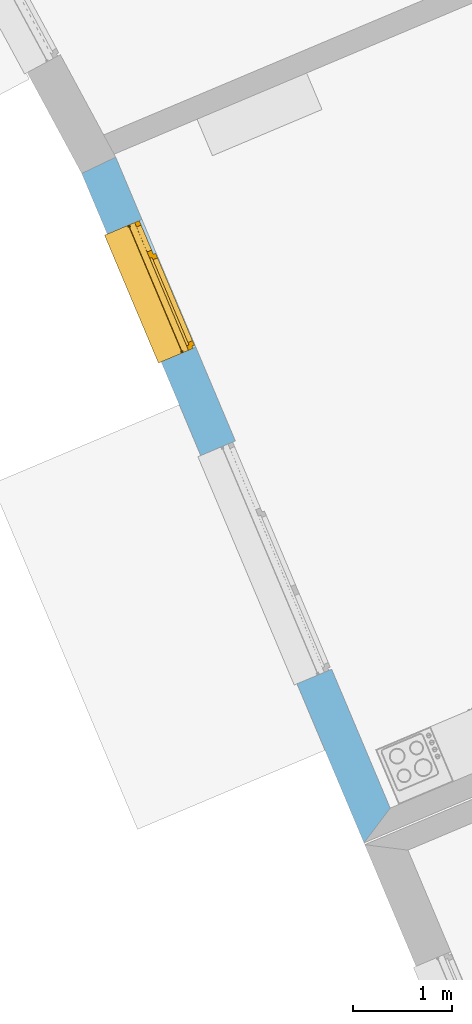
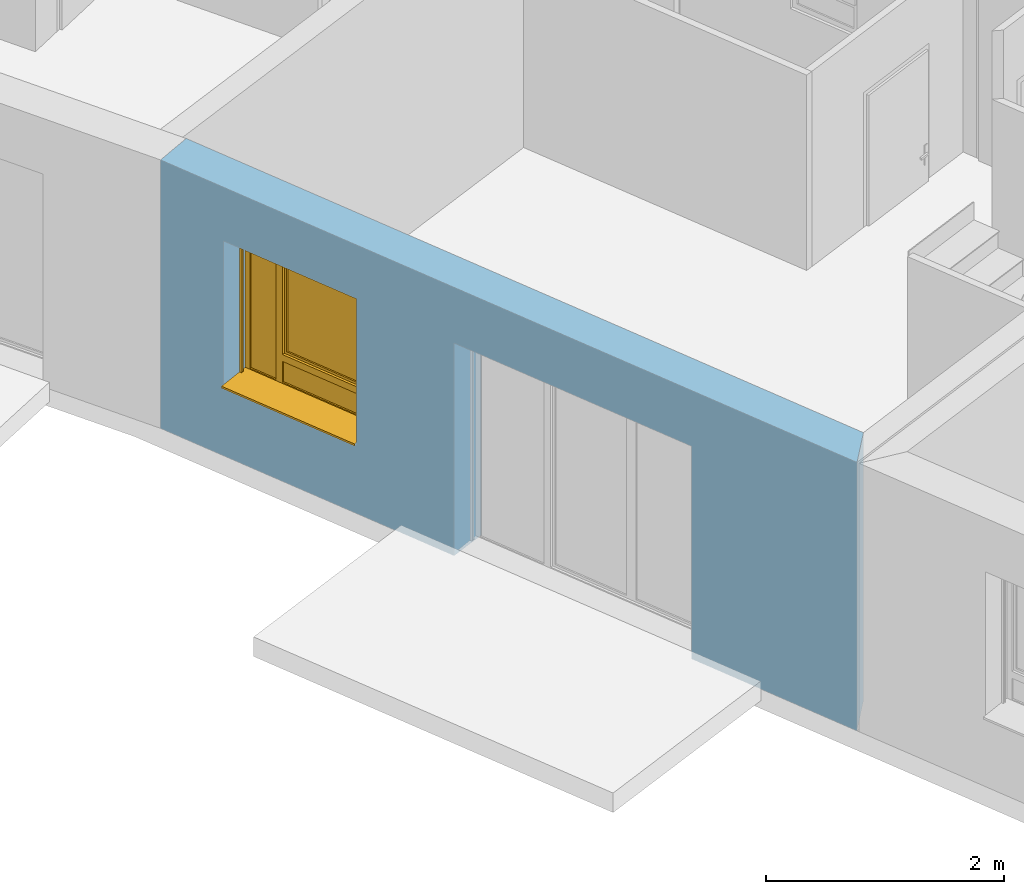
# One storey, part 58 of 195: 1 window, 2 openings, plus 1 element that does not belong to this part.
"""IFC2X3 building model written with IfcOpenShell, lengths in metres."""

import ifcopenshell
import ifcopenshell.guid

model = None  # the IFC model being written
_history = None  # IfcOwnerHistory: only IFC2X3 demands one
_inside = {}  # id of a spatial element -> (the spatial element, [elements in it])
_under = {}  # id of a project, library or spatial element -> (it, [spatial elements below it])
_declared = {}  # id of a project -> (the project, [libraries it declares])
_typed = {}  # id of a type object -> (the type object, [elements of that type])
_made_of = {}  # id of a material, layer set ... -> (it, [elements and type objects made of it])


def new_model(schema):
    """Start an empty IFC model of exactly this schema.

    Asked for "IFC4X3", IfcOpenShell would pick the latest addendum, in which some entities
    have other attributes; the version numbers below select the first issue.
    IFC2X3 requires an IfcOwnerHistory on every rooted entity: one is made here for all.
    """
    global model, _history
    if schema == "IFC4X3":
        model = ifcopenshell.file(schema_version=(4, 3, 0, 0))
    else:
        model = ifcopenshell.file(schema=schema)
    _inside.clear()
    _under.clear()
    _declared.clear()
    _typed.clear()
    _made_of.clear()
    _history = None
    if model.schema == "IFC2X3":
        org = make("IfcOrganization", Name="unknown")
        user = make(
            "IfcPersonAndOrganization",
            ThePerson=make("IfcPerson", FamilyName="unknown"),
            TheOrganization=org,
        )
        app = make(
            "IfcApplication",
            ApplicationDeveloper=org,
            Version="unknown",
            ApplicationFullName="unknown",
            ApplicationIdentifier="unknown",
        )
        _history = make(
            "IfcOwnerHistory",
            OwningUser=user,
            OwningApplication=app,
            ChangeAction="ADDED",
            CreationDate=0,
        )
    return model


def make(cls, **values):
    """One entity of the class cls with the attributes given. An attribute that is None is left unset."""
    return model.create_entity(
        cls, **{name: value for name, value in values.items() if value is not None}
    )


def entity(cls, *values):
    """Any entity or typed value of the class cls, its attributes in the order of the schema. None: left unset."""
    e = model.create_entity(cls)
    for i, value in enumerate(values):
        if value is not None:
            e[i] = value
    return e


def rooted(cls, **values):
    """An entity with a GlobalId (a new one), such as an element, a storey or a relation."""
    return make(cls, GlobalId=ifcopenshell.guid.new(), OwnerHistory=_history, **values)


def si_unit(unit_type, name, prefix=None):
    """IfcSIUnit, for example si_unit("LENGTHUNIT", "METRE", prefix="MILLI")."""
    return make("IfcSIUnit", UnitType=unit_type, Prefix=prefix, Name=name)


def converted_unit(unit_type, name, factor, base, dimensions=None, offset=None):
    """IfcConversionBasedUnit, such as the inch: factor (a typed value) times the base unit."""
    return make(
        "IfcConversionBasedUnit"
        if offset is None
        else "IfcConversionBasedUnitWithOffset",
        ConversionOffset=offset,
        Dimensions=None
        if dimensions is None
        else entity("IfcDimensionalExponents", *dimensions),
        UnitType=unit_type,
        Name=name,
        ConversionFactor=make(
            "IfcMeasureWithUnit", ValueComponent=factor, UnitComponent=base
        ),
    )


def derived_unit(unit_type, elements):
    """IfcDerivedUnit: a product of units, each with its exponent."""
    return make(
        "IfcDerivedUnit",
        Elements=[
            make("IfcDerivedUnitElement", Unit=unit, Exponent=power)
            for unit, power in elements
        ],
        UnitType=unit_type,
    )


def money_unit(currency):
    """IfcMonetaryUnit."""
    return make("IfcMonetaryUnit", Currency=currency)


def assignment(units):
    """IfcUnitAssignment: the units of a project."""
    return None if units is None else make("IfcUnitAssignment", Units=units)


def point(xyz):
    """IfcCartesianPoint."""
    return None if xyz is None else make("IfcCartesianPoint", Coordinates=xyz)


def direction(xyz):
    """IfcDirection."""
    return None if xyz is None else make("IfcDirection", DirectionRatios=xyz)


def frame(location, z_axis=None, x_axis=None):
    """IfcAxis2Placement3D, a coordinate frame: its origin and axes. An axis left out is left unset."""
    return make(
        "IfcAxis2Placement3D",
        Location=point(location),
        Axis=direction(z_axis),
        RefDirection=direction(x_axis),
    )


def origin_with_axes():
    """The frame at (0, 0, 0) with the z axis (0, 0, 1) and the x axis (1, 0, 0) written out."""
    return frame((0.0, 0.0, 0.0), z_axis=(0.0, 0.0, 1.0), x_axis=(1.0, 0.0, 0.0))


def place(relative_to, where):
    """IfcLocalPlacement: puts the frame where relative to a parent placement (None: the world)."""
    return make(
        "IfcLocalPlacement", PlacementRelTo=relative_to, RelativePlacement=where
    )


def context(
    kind, dimensions, precision=None, world=None, true_north=None, identifier=None
):
    """IfcGeometricRepresentationContext, for example the 3D "Model" context."""
    return make(
        "IfcGeometricRepresentationContext",
        ContextIdentifier=identifier,
        ContextType=kind,
        CoordinateSpaceDimension=dimensions,
        Precision=precision,
        WorldCoordinateSystem=world,
        TrueNorth=true_north,
    )


def subcontext(parent, identifier, kind, view, scale=None):
    """IfcGeometricRepresentationSubContext, for example "Body" below "Model"."""
    return make(
        "IfcGeometricRepresentationSubContext",
        ContextIdentifier=identifier,
        ContextType=kind,
        ParentContext=parent,
        TargetScale=scale,
        TargetView=view,
    )


def project(units=None, contexts=None):
    """IfcProject with its units and contexts."""
    return rooted(
        "IfcProject",
        Name="project",
        RepresentationContexts=contexts,
        UnitsInContext=assignment(units),
    )


def spatial(cls, under=None, at=None, **own):
    """A site, building, storey or space (cls), placed at a placement, below another one or the project."""
    s = rooted(cls, ObjectPlacement=at, **own)
    if under is not None:
        _under.setdefault(under.id(), (under, []))[1].append(s)
    return s


def polyline(points):
    """IfcPolyline through the points."""
    return make("IfcPolyline", Points=[point(p) for p in points])


def outline(outer, holes=None, kind="AREA"):
    """IfcArbitraryClosedProfileDef: a profile drawn as a closed curve; with holes, ...WithVoids."""
    if holes is None:
        return make("IfcArbitraryClosedProfileDef", ProfileType=kind, OuterCurve=outer)
    return make(
        "IfcArbitraryProfileDefWithVoids",
        ProfileType=kind,
        OuterCurve=outer,
        InnerCurves=holes,
    )


def extrude(swept, where, along, depth):
    """IfcExtrudedAreaSolid: the profile swept, set in the frame where, extruded along a direction by depth."""
    return make(
        "IfcExtrudedAreaSolid",
        SweptArea=swept,
        Position=where,
        ExtrudedDirection=direction(along),
        Depth=depth,
    )


def faces_of(points, faces, orient=None, outer=None):
    """IfcFace entities. A face is a list of loops; a loop is a list of indices into points, from 0.

    orient and outer hold one flag for each loop. By default every Orientation is true, the
    first loop of a face is its IfcFaceOuterBound and the others are IfcFaceBound.
    """
    made = []
    for i, loops in enumerate(faces):
        bounds = []
        for j, loop in enumerate(loops):
            is_outer = j == 0 if outer is None else outer[i][j]
            bounds.append(
                make(
                    "IfcFaceOuterBound" if is_outer else "IfcFaceBound",
                    Bound=make("IfcPolyLoop", Polygon=[points[k] for k in loop]),
                    Orientation=True if orient is None else orient[i][j],
                )
            )
        made.append(make("IfcFace", Bounds=bounds))
    return made


def open_shell(faces, orient=None, outer=None):
    """The faces of one IfcOpenShell. surface_model builds it on its shared points."""
    return ("IfcOpenShell", faces, orient, outer)


def faceted_brep(points, faces, orient=None, outer=None, voids=None):
    """IfcFacetedBrep: a solid bounded by flat faces; with voids (closed shells), ...WithVoids."""
    shared = [point(p) for p in points]
    hull = make("IfcClosedShell", CfsFaces=faces_of(shared, faces, orient, outer))
    if voids is None:
        return make("IfcFacetedBrep", Outer=hull)
    return make(
        "IfcFacetedBrepWithVoids",
        Outer=hull,
        Voids=[
            make(cls, CfsFaces=faces_of(shared, fs, o, b)) for cls, fs, o, b in voids
        ],
    )


def surface_model(cls, points, shells):
    """IfcFaceBasedSurfaceModel or IfcShellBasedSurfaceModel (cls): surfaces that need not close."""
    shared = [point(p) for p in points]
    made = [make(c, CfsFaces=faces_of(shared, fs, o, b)) for c, fs, o, b in shells]
    if cls == "IfcFaceBasedSurfaceModel":
        return make(cls, FbsmFaces=made)
    return make(cls, SbsmBoundary=made)


def shape(context_of_items, identifier, shape_type, items):
    """IfcShapeRepresentation: the items that make up one representation, for example the "Body"."""
    return make(
        "IfcShapeRepresentation",
        ContextOfItems=context_of_items,
        RepresentationIdentifier=identifier,
        RepresentationType=shape_type,
        Items=items,
    )


def source(mapping_origin, context_of_items, identifier, shape_type, items):
    """IfcRepresentationMap: a shape defined once, which mapped items show again and again."""
    return make(
        "IfcRepresentationMap",
        MappingOrigin=mapping_origin,
        MappedRepresentation=shape(context_of_items, identifier, shape_type, items),
    )


def transform(
    local_origin,
    x_axis=None,
    y_axis=None,
    z_axis=None,
    scale=None,
    scale2=None,
    scale3=None,
    uniform=True,
):
    """IfcCartesianTransformationOperator3D, or its non-uniform kind. x_axis, y_axis, z_axis: its Axis1, 2, 3."""
    if uniform:
        return make(
            "IfcCartesianTransformationOperator3D",
            Axis1=direction(x_axis),
            Axis2=direction(y_axis),
            LocalOrigin=point(local_origin),
            Scale=scale,
            Axis3=direction(z_axis),
        )
    return make(
        "IfcCartesianTransformationOperator3DnonUniform",
        Axis1=direction(x_axis),
        Axis2=direction(y_axis),
        LocalOrigin=point(local_origin),
        Scale=scale,
        Axis3=direction(z_axis),
        Scale2=scale2,
        Scale3=scale3,
    )


def mapped(mapping_source, mapping_target):
    """IfcMappedItem: shows the shape of a source again, moved by a transform."""
    return make(
        "IfcMappedItem", MappingSource=mapping_source, MappingTarget=mapping_target
    )


def material(Name=None, Category=None):
    """IfcMaterial."""
    return make("IfcMaterial", Name=Name, Category=Category)


def layer(
    of_material, thickness, ventilated=None, Name=None, Category=None, Priority=None
):
    """IfcMaterialLayer: one layer of a wall or slab, of a material (None: an air gap)."""
    return make(
        "IfcMaterialLayer",
        Material=of_material,
        LayerThickness=thickness,
        IsVentilated=ventilated,
        Name=Name,
        Category=Category,
        Priority=Priority,
    )


def layer_set(layers, Name=None):
    """IfcMaterialLayerSet."""
    return make("IfcMaterialLayerSet", MaterialLayers=layers, LayerSetName=Name)


def layer_usage(for_layer_set, set_direction, sense, offset, extent=None):
    """IfcMaterialLayerSetUsage: how a layer set lies in its element."""
    return make(
        "IfcMaterialLayerSetUsage",
        ForLayerSet=for_layer_set,
        LayerSetDirection=set_direction,
        DirectionSense=sense,
        OffsetFromReferenceLine=offset,
        ReferenceExtent=extent,
    )


def made_of(thing, what):
    """Note that an element or type object is made of a material, layer set ...; save() writes the relation."""
    if what is not None:
        _made_of.setdefault(what.id(), (what, []))[1].append(thing)
    return thing


def type_object(cls, material=None, **own):
    """A type object (cls), such as IfcWallType, which elements share."""
    return made_of(rooted(cls, **own), material)


def element(
    cls,
    number,
    at=None,
    inside=None,
    cuts=None,
    type_object=None,
    material=None,
    context=None,
    identifier="Body",
    shape_type=None,
    held_by="IfcProductDefinitionShape",
    body=None,
    shapes=None,
    **own,
):
    """One element of the class cls, such as IfcWall. Its Tag is "e" and its number.

    at: its placement. inside: the storey or other place that contains it. cuts: it is an
    opening in that element (IfcRelVoidsElement). A single representation is given by context,
    identifier, shape_type and body (its items); several are given by shapes. held_by: the class
    of the entity that holds the representations. save() writes the other relations.
    """
    e = rooted(cls, Tag="e%d" % number, ObjectPlacement=at, **own)
    if body is not None:
        shapes = [shape(context, identifier, shape_type, body)]
    if shapes is not None:
        e.Representation = make(held_by, Representations=shapes)
    if inside is not None:
        _inside.setdefault(inside.id(), (inside, []))[1].append(e)
    if cuts is not None:
        rooted(
            "IfcRelVoidsElement", RelatingBuildingElement=cuts, RelatedOpeningElement=e
        )
    if type_object is not None:
        _typed.setdefault(type_object.id(), (type_object, []))[1].append(e)
    return made_of(e, material)


def fill(opening, filler):
    """IfcRelFillsElement: the door or window that sits in an opening."""
    return rooted(
        "IfcRelFillsElement",
        RelatingOpeningElement=opening,
        RelatedBuildingElement=filler,
    )


def aggregate(whole, parts):
    """IfcRelAggregates: a whole, such as a stair, and the parts it consists of."""
    return rooted("IfcRelAggregates", RelatingObject=whole, RelatedObjects=parts)


def save(model, path):
    """Write the relations noted so far, then the file.

    IfcRelAggregates (storeys below a building ...), IfcRelContainedInSpatialStructure (elements
    in a storey), IfcRelDefinesByType, IfcRelAssociatesMaterial and IfcRelDeclares: one each for
    every whole, place, type object, material and project.
    """
    for whole, parts in _under.values():
        aggregate(whole, parts)
    for where, things in _inside.values():
        rooted(
            "IfcRelContainedInSpatialStructure",
            RelatedElements=things,
            RelatingStructure=where,
        )
    for kind, things in _typed.values():
        rooted("IfcRelDefinesByType", RelatedObjects=things, RelatingType=kind)
    for what, things in _made_of.values():
        rooted("IfcRelAssociatesMaterial", RelatedObjects=things, RelatingMaterial=what)
    for by, libraries in _declared.values():
        rooted("IfcRelDeclares", RelatingContext=by, RelatedDefinitions=libraries)
    model.write(path)


model = new_model("IFC2X3")

# Units and contexts
model_context = context("Model", 3, precision=1e-05, world=origin_with_axes(), true_north=direction((0.0, 1.0)))
body_context = subcontext(model_context, "Body", "Model", "MODEL_VIEW")
ifc_project = project(units=[si_unit("LENGTHUNIT", "METRE"), si_unit("AREAUNIT", "SQUARE_METRE"), si_unit("VOLUMEUNIT", "CUBIC_METRE"), converted_unit("PLANEANGLEUNIT", "DEGREE", entity("IfcPlaneAngleMeasure", 0.0174532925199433), si_unit("PLANEANGLEUNIT", "RADIAN"), dimensions=[0, 0, 0, 0, 0, 0, 0]), money_unit("CHF"), converted_unit("TIMEUNIT", "Year", entity("IfcTimeMeasure", 31557600.0), si_unit("TIMEUNIT", "SECOND"), dimensions=[0, 0, 1, 0, 0, 0, 0]), si_unit("MASSUNIT", "GRAM", prefix="KILO"), si_unit("THERMODYNAMICTEMPERATUREUNIT", "DEGREE_CELSIUS"), si_unit("LUMINOUSINTENSITYUNIT", "LUMEN"), si_unit("ENERGYUNIT", "JOULE", prefix="MEGA"), derived_unit("THERMALCONDUCTANCEUNIT", [(si_unit("POWERUNIT", "WATT"), 1), (si_unit("LENGTHUNIT", "METRE"), -1), (si_unit("THERMODYNAMICTEMPERATUREUNIT", "KELVIN"), -1)]), derived_unit("SPECIFICHEATCAPACITYUNIT", [(si_unit("ENERGYUNIT", "JOULE"), 1), (si_unit("MASSUNIT", "GRAM", prefix="KILO"), -1), (si_unit("THERMODYNAMICTEMPERATUREUNIT", "KELVIN"), -1)]), derived_unit("MASSDENSITYUNIT", [(si_unit("MASSUNIT", "GRAM", prefix="KILO"), 1), (si_unit("VOLUMEUNIT", "CUBIC_METRE"), -1)])], contexts=[model_context])

# Site, building, storey
site_placement = place(None, origin_with_axes())
site = spatial("IfcSite", under=ifc_project, at=site_placement, Name="Site", CompositionType="ELEMENT")
building_placement = place(site_placement, origin_with_axes())
building = spatial("IfcBuilding", under=site, at=building_placement, Name="Bâtiment", CompositionType="ELEMENT")
storey_placement = place(building_placement, origin_with_axes())
storey = spatial("IfcBuildingStorey", under=building, at=storey_placement, Name="rdc", CompositionType="ELEMENT", Elevation=0.0)

# Wall, openings, window
ifc_material_1 = material(Name="Parpaing 312445824")
ifc_layer_1 = layer(ifc_material_1, 0.22, ventilated="UNKNOWN")
ifc_material_2 = material(Name="Isolant styromousse 301821074")
ifc_layer_2 = layer(ifc_material_2, 0.16, ventilated="UNKNOWN")
ifc_layer_set = layer_set([ifc_layer_1, ifc_layer_2], Name="isol int 22+16 0836643197")
ifc_layer_usage = layer_usage(ifc_layer_set, "AXIS2", "POSITIVE", 0.0)
wall_type = type_object("IfcWallType", Name="isol int 22+16 0836643197 380", PredefinedType="NOTDEFINED")
wall_placement = place(storey_placement, frame((9560.431539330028, -1038.563917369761, 57.7), z_axis=(0.0, 0.0, 1.0), x_axis=(0.3885669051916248, -0.9214205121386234, 0.0)))
wall = element("IfcWallStandardCase", 1, at=wall_placement, inside=storey, type_object=wall_type, material=ifc_layer_usage, Name="Mur-113", context=body_context, shape_type="SweptSolid", body=[
    extrude(outline(polyline([(0.0, 0.0), (7.331275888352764, 0.0), (7.111275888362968, 0.3799999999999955), (-0.01830169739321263, 0.3799999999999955), (0.0, 0.0)])), origin_with_axes(), (0.0, 0.0, 1.0), 2.75),
])
opening_1_placement = place(wall_placement, frame((4.33985535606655, 0.0, 0.0), z_axis=(0.0, 0.0, 1.0), x_axis=(1.0, 0.0, 0.0)))
element("IfcOpeningElement", 2, at=opening_1_placement, cuts=wall, Name="Fen-045", context=body_context, shape_type="Brep", body=[
    faceted_brep([(-1.25, 0.4800000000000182, 2.18), (1.250000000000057, 0.4800000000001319, 2.18), (1.25, 3.005842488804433, 2.18), (-1.25, 3.005842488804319, 2.18), (-1.25, 0.4800000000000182, 2.380000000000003), (1.250000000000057, 0.4800000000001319, 2.380000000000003), (1.250000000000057, 0.3000000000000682, 2.18), (1.250000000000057, 0.3000000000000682, 0.0), (1.25, 3.005842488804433, 0.0), (-1.25, 3.005842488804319, 0.0), (-1.25, 0.3000000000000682, 2.18), (-1.25, 0.3000000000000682, 0.0), (-1.25, 0.2200000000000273, 2.18), (-1.25, 0.2200000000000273, 2.380000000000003), (1.25, 0.220000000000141, 2.380000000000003), (1.25, 0.220000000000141, 2.18), (1.250000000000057, -2.625842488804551, 2.18), (1.250000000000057, -2.625842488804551, 0.0), (-1.25, -2.625842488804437, 0.0), (-1.25, -2.625842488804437, 2.18)], [[[0, 1, 2, 3]], [[1, 0, 4, 5]], [[1, 6, 7, 8, 2]], [[2, 8, 9, 3]], [[10, 0, 3, 9, 11]], [[0, 10, 12, 13, 4]], [[4, 13, 14, 5]], [[6, 1, 5, 14, 15]], [[6, 15, 16, 17, 7]], [[7, 11, 9, 8]], [[12, 10, 11, 18, 19]], [[12, 15, 14, 13]], [[15, 12, 19, 16]], [[19, 18, 17, 16]], [[11, 7, 17, 18]]]),
])
opening_2_placement = place(wall_placement, frame((1.363914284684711, 0.0, 0.7000000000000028), z_axis=(0.0, 0.0, 1.0), x_axis=(1.0, 0.0, 0.0)))
opening_2 = element("IfcOpeningElement", 3, at=opening_2_placement, cuts=wall, Name="Fen-045", context=body_context, shape_type="Brep", body=[
    faceted_brep([(-0.7000000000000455, 0.4800000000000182, 1.5), (0.7000000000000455, 0.4800000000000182, 1.5), (0.6999999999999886, 3.005842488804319, 1.5), (-0.6999999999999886, 3.005842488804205, 1.5), (-0.7000000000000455, 0.4800000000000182, 1.700000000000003), (0.7000000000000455, 0.4800000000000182, 1.700000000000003), (0.6999999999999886, 0.3000000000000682, 1.5), (0.7000000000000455, 0.2999999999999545, 0.0), (0.6999999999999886, 3.005842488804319, 0.0), (-0.6999999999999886, 3.005842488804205, 0.0), (-0.6999999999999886, 0.3000000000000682, 1.5), (-0.6999999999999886, 0.3000000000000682, 0.0), (-0.7000000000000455, 0.2199999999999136, 1.5), (-0.7000000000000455, 0.2199999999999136, 1.700000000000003), (0.6999999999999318, 0.2200000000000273, 1.700000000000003), (0.6999999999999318, 0.2200000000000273, 1.5), (0.6999999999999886, -2.625842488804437, 1.5), (0.6999999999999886, -2.625842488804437, 0.0), (-0.6999999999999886, -2.625842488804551, 0.0), (-0.6999999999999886, -2.625842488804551, 1.5)], [[[0, 1, 2, 3]], [[1, 0, 4, 5]], [[1, 6, 7, 8, 2]], [[2, 8, 9, 3]], [[10, 0, 3, 9, 11]], [[0, 10, 12, 13, 4]], [[4, 13, 14, 5]], [[6, 1, 5, 14, 15]], [[6, 15, 16, 17, 7]], [[7, 11, 9, 8]], [[12, 10, 11, 18, 19]], [[12, 15, 14, 13]], [[15, 12, 19, 16]], [[19, 18, 17, 16]], [[11, 7, 17, 18]]]),
])
window_style = type_object("IfcWindowStyle", Name="Fenêtre variable 27", ConstructionType="NOTDEFINED", OperationType="TRIPLE_PANEL_LEFT", ParameterTakesPrecedence=False, Sizeable=False)
shared_shape = source(origin_with_axes(), body_context, "Body", "SurfaceModel", [
    surface_model("IfcShellBasedSurfaceModel", [(0.7, -0.05100000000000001, 0.05), (-0.7, -0.05100000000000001, 0.05000000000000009), (-0.7, -0.05100000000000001, 0.04000000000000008), (0.7, -0.05100000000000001, 0.04), (-0.7, -0.3799999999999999, 0.02900000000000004), (0.7, -0.3799999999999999, 0.02899999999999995), (-0.7, -0.3799999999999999, 0.00900000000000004), (0.7, -0.3799999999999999, 0.008999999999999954), (-0.7, -0.3699999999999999, 0.01900000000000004), (0.7, -0.3699999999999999, 0.01899999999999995)], [open_shell([[[0, 1, 2, 3]], [[3, 2, 4, 5]], [[5, 4, 6, 7]], [[7, 6, 8, 9]]])]),
    faceted_brep([(0.7, -0.13, 1.7), (0.7, 0.13, 1.7), (0.697, 0.13, 1.7), (0.697, -0.13, 1.7), (0.7, -0.13, 1.5), (0.7, 0.13, 1.5), (0.697, 0.13, 1.5), (0.697, -0.13, 1.5)], [[[0, 1, 2, 3]], [[0, 4, 5, 1]], [[1, 5, 6, 2]], [[3, 2, 6, 7]], [[4, 0, 3, 7]], [[5, 4, 7, 6]]]),
    faceted_brep([(-0.6970000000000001, -0.1299999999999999, 1.7), (-0.6970000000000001, 0.1300000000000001, 1.7), (-0.7000000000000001, 0.1300000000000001, 1.7), (-0.7000000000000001, -0.1299999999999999, 1.7), (-0.6970000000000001, -0.1299999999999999, 1.5), (-0.6970000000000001, 0.1300000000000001, 1.5), (-0.7000000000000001, 0.1300000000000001, 1.5), (-0.7000000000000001, -0.1299999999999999, 1.5)], [[[0, 1, 2, 3]], [[0, 4, 5, 1]], [[1, 5, 6, 2]], [[3, 2, 6, 7]], [[4, 0, 3, 7]], [[5, 4, 7, 6]]]),
    faceted_brep([(0.697, -0.13, 1.5), (0.697, -0.13, 1.7), (-0.697, -0.1299999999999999, 1.7), (-0.697, -0.1299999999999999, 1.5), (0.697, -0.127, 1.5), (0.697, -0.127, 1.697), (0.697, 0.127, 1.697), (0.697, 0.127, 1.503), (0.697, -0.108, 1.503), (0.697, -0.108, 1.5), (0.697, 0.13, 1.5), (0.697, 0.13, 1.7), (-0.697, 0.1300000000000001, 1.7), (-0.697, 0.1300000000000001, 1.5), (-0.697, -0.1079999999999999, 1.5), (-0.697, -0.1079999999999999, 1.503), (-0.697, 0.1270000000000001, 1.503), (-0.697, 0.1270000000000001, 1.697), (-0.697, -0.1269999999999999, 1.697), (-0.697, -0.1269999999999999, 1.5)], [[[0, 1, 2, 3]], [[0, 4, 5, 6, 7, 8, 9, 10, 11, 1]], [[1, 11, 12, 2]], [[3, 2, 12, 13, 14, 15, 16, 17, 18, 19]], [[4, 0, 3, 19]], [[5, 4, 19, 18]], [[6, 5, 18, 17]], [[7, 6, 17, 16]], [[8, 7, 16, 15]], [[9, 8, 15, 14]], [[10, 9, 14, 13]], [[11, 10, 13, 12]]]),
    faceted_brep([(0.694, -0.08075423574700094, 1.585760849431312), (0.694, -0.07705479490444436, 1.571954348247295), (0.694, -0.07101408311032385, 1.559), (0.694, -0.06281564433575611, 1.547291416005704), (0.694, -0.05270858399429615, 1.537184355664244), (0.694, -0.04099999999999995, 1.528985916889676), (0.694, -0.02804565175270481, 1.522945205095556), (0.694, -0.01423915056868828, 1.519245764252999), (0.694, 0.0, 1.518), (0.694, 0.01423915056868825, 1.519245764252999), (0.694, 0.02804565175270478, 1.522945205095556), (0.694, 0.04099999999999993, 1.528985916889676), (0.694, 0.05270858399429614, 1.537184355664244), (0.694, 0.06281564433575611, 1.547291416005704), (0.694, 0.07101408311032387, 1.559), (0.694, 0.07705479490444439, 1.571954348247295), (0.694, 0.08075423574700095, 1.585760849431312), (0.694, 0.0819999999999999, 1.6), (0.694, 0.08075423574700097, 1.614239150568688), (0.694, 0.0770547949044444, 1.628045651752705), (0.694, 0.07101408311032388, 1.641), (0.694, 0.06281564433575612, 1.652708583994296), (0.694, 0.05270858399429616, 1.662815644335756), (0.694, 0.04099999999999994, 1.671014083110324), (0.694, 0.02804565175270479, 1.677054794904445), (0.694, 0.01423915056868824, 1.680754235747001), (0.694, 0.0, 1.682), (0.694, -0.01423915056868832, 1.680754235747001), (0.694, -0.02804565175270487, 1.677054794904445), (0.694, -0.04100000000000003, 1.671014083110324), (0.694, -0.05270858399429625, 1.662815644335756), (0.694, -0.06281564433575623, 1.652708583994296), (0.694, -0.07101408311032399, 1.641), (0.694, -0.07705479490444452, 1.628045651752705), (0.694, -0.0807542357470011, 1.614239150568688), (0.694, -0.08200000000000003, 1.6), (-0.694, -0.08075423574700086, 1.585760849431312), (-0.694, -0.07705479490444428, 1.571954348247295), (-0.694, -0.07101408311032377, 1.559), (-0.694, -0.06281564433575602, 1.547291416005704), (-0.694, -0.05270858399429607, 1.537184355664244), (-0.694, -0.04099999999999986, 1.528985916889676), (-0.694, -0.02804565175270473, 1.522945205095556), (-0.694, -0.0142391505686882, 1.519245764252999), (-0.694, 0.0, 1.518), (-0.694, 0.01423915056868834, 1.519245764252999), (-0.694, 0.02804565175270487, 1.522945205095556), (-0.694, 0.04100000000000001, 1.528985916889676), (-0.694, 0.05270858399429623, 1.537184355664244), (-0.694, 0.06281564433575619, 1.547291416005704), (-0.694, 0.07101408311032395, 1.559), (-0.694, 0.07705479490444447, 1.571954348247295), (-0.694, 0.08075423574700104, 1.585760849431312), (-0.694, 0.08199999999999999, 1.6), (-0.694, 0.08075423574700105, 1.614239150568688), (-0.694, 0.07705479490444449, 1.628045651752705), (-0.694, 0.07101408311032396, 1.641), (-0.694, 0.0628156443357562, 1.652708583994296), (-0.694, 0.05270858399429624, 1.662815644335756), (-0.694, 0.04100000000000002, 1.671014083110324), (-0.694, 0.02804565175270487, 1.677054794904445), (-0.694, 0.01423915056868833, 1.680754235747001), (-0.694, 0.0, 1.682), (-0.694, -0.01423915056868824, 1.680754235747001), (-0.694, -0.02804565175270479, 1.677054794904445), (-0.694, -0.04099999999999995, 1.671014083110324), (-0.694, -0.05270858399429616, 1.662815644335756), (-0.694, -0.06281564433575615, 1.652708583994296), (-0.694, -0.07101408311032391, 1.641), (-0.694, -0.07705479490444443, 1.628045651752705), (-0.694, -0.08075423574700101, 1.614239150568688), (-0.694, -0.08199999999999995, 1.6)], [[[0, 1, 2, 3, 4, 5, 6, 7, 8, 9, 10, 11, 12, 13, 14, 15, 16, 17, 18, 19, 20, 21, 22, 23, 24, 25, 26, 27, 28, 29, 30, 31, 32, 33, 34, 35]], [[1, 0, 36, 37]], [[2, 1, 37, 38]], [[3, 2, 38, 39]], [[4, 3, 39, 40]], [[5, 4, 40, 41]], [[6, 5, 41, 42]], [[7, 6, 42, 43]], [[8, 7, 43, 44]], [[9, 8, 44, 45]], [[10, 9, 45, 46]], [[11, 10, 46, 47]], [[12, 11, 47, 48]], [[13, 12, 48, 49]], [[14, 13, 49, 50]], [[15, 14, 50, 51]], [[16, 15, 51, 52]], [[17, 16, 52, 53]], [[18, 17, 53, 54]], [[19, 18, 54, 55]], [[20, 19, 55, 56]], [[21, 20, 56, 57]], [[22, 21, 57, 58]], [[23, 22, 58, 59]], [[24, 23, 59, 60]], [[25, 24, 60, 61]], [[26, 25, 61, 62]], [[27, 26, 62, 63]], [[28, 27, 63, 64]], [[29, 28, 64, 65]], [[30, 29, 65, 66]], [[31, 30, 66, 67]], [[32, 31, 67, 68]], [[33, 32, 68, 69]], [[34, 33, 69, 70]], [[35, 34, 70, 71]], [[0, 35, 71, 36]], [[36, 71, 70, 69, 68, 67, 66, 65, 64, 63, 62, 61, 60, 59, 58, 57, 56, 55, 54, 53, 52, 51, 50, 49, 48, 47, 46, 45, 44, 43, 42, 41, 40, 39, 38, 37]]]),
    faceted_brep([(-0.7, -0.105, 0.03), (-0.7, -0.13, 0.03), (-0.7, -0.1299999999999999, 1.5), (-0.7, -0.1049999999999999, 1.5), (-0.6749999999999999, -0.105, 0.03), (-0.6749999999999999, -0.108, 0.03), (-0.697, -0.108, 0.03), (-0.697, -0.127, 0.03), (-0.6749999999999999, -0.127, 0.03), (-0.6749999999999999, -0.13, 0.03), (-0.6749999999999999, -0.1299999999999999, 1.5), (-0.6749999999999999, -0.1269999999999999, 1.5), (-0.697, -0.1269999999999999, 1.5), (-0.697, -0.1079999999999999, 1.5), (-0.6749999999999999, -0.1079999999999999, 1.5), (-0.6749999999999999, -0.1049999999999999, 1.5)], [[[0, 1, 2, 3]], [[0, 4, 5, 6, 7, 8, 9, 1]], [[1, 9, 10, 2]], [[3, 2, 10, 11, 12, 13, 14, 15]], [[4, 0, 3, 15]], [[5, 4, 15, 14]], [[6, 5, 14, 13]], [[7, 6, 13, 12]], [[8, 7, 12, 11]], [[9, 8, 11, 10]]]),
    faceted_brep([(0.7, -0.105, 0.03), (0.7, -0.1049999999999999, 1.5), (0.7, -0.1299999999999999, 1.5), (0.7, -0.13, 0.03), (0.6749999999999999, -0.105, 0.03), (0.6749999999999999, -0.1049999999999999, 1.5), (0.6749999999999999, -0.1079999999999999, 1.5), (0.697, -0.1079999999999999, 1.5), (0.697, -0.1269999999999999, 1.5), (0.6749999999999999, -0.1269999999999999, 1.5), (0.6749999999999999, -0.1299999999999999, 1.5), (0.6749999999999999, -0.13, 0.03), (0.6749999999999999, -0.127, 0.03), (0.697, -0.127, 0.03), (0.697, -0.108, 0.03), (0.6749999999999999, -0.108, 0.03)], [[[0, 1, 2, 3]], [[4, 5, 1, 0]], [[1, 5, 6, 7, 8, 9, 10, 2]], [[3, 2, 10, 11]], [[0, 3, 11, 12, 13, 14, 15, 4]], [[15, 6, 5, 4]], [[14, 7, 6, 15]], [[13, 8, 7, 14]], [[12, 9, 8, 13]], [[11, 10, 9, 12]]]),
    surface_model("IfcShellBasedSurfaceModel", [(0.697, -0.115, 1.6), (-0.697, -0.1149999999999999, 1.6), (-0.697, -0.12, 1.6), (0.697, -0.12, 1.6), (0.697, -0.115, 1.6), (0.697, -0.12, 1.6), (-0.697, -0.1199999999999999, 1.6), (-0.697, -0.1149999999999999, 1.6)], [open_shell([[[0, 1, 2, 3]], [[4, 5, 6, 7]]])]),
    faceted_brep([(0.697, -0.115, 1.6), (0.697, -0.1166666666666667, 1.583333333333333), (-0.697, -0.1166666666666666, 1.583333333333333), (-0.697, -0.1149999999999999, 1.6), (0.697, -0.12, 1.6), (0.697, -0.1216666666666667, 1.583333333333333), (0.697, -0.1216666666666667, 1.566666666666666), (0.697, -0.12, 1.55), (0.697, -0.115, 1.55), (0.697, -0.1166666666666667, 1.566666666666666), (-0.697, -0.1166666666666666, 1.566666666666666), (-0.697, -0.1149999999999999, 1.55), (-0.697, -0.1199999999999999, 1.55), (-0.697, -0.1216666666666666, 1.566666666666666), (-0.697, -0.1216666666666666, 1.583333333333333), (-0.697, -0.1199999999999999, 1.6)], [[[0, 1, 2, 3]], [[0, 4, 5, 6, 7, 8, 9, 1]], [[1, 9, 10, 2]], [[3, 2, 10, 11, 12, 13, 14, 15]], [[4, 0, 3, 15]], [[5, 4, 15, 14]], [[6, 5, 14, 13]], [[7, 6, 13, 12]], [[8, 7, 12, 11]], [[9, 8, 11, 10]]]),
    faceted_brep([(0.697, -0.115, 1.55), (0.697, -0.1166666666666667, 1.533333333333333), (-0.697, -0.1166666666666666, 1.533333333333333), (-0.697, -0.1149999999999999, 1.55), (0.697, -0.12, 1.55), (0.697, -0.1216666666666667, 1.533333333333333), (0.697, -0.1216666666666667, 1.516666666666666), (0.697, -0.12, 1.5), (0.697, -0.115, 1.5), (0.697, -0.1166666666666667, 1.516666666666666), (-0.697, -0.1166666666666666, 1.516666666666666), (-0.697, -0.1149999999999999, 1.5), (-0.697, -0.1199999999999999, 1.5), (-0.697, -0.1216666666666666, 1.516666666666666), (-0.697, -0.1216666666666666, 1.533333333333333), (-0.697, -0.1199999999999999, 1.55)], [[[0, 1, 2, 3]], [[0, 4, 5, 6, 7, 8, 9, 1]], [[1, 9, 10, 2]], [[3, 2, 10, 11, 12, 13, 14, 15]], [[4, 0, 3, 15]], [[5, 4, 15, 14]], [[6, 5, 14, 13]], [[7, 6, 13, 12]], [[8, 7, 12, 11]], [[9, 8, 11, 10]]]),
    faceted_brep([(0.6749999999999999, 0.0, 1.45), (0.6749999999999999, -0.02500000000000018, 1.45), (0.6499999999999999, -0.02500000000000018, 1.45), (0.6499999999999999, -0.05000000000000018, 1.45), (0.7, -0.05000000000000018, 1.45), (0.7, 0.0, 1.45), (0.6749999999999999, 0.0, 0.3099999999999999), (0.6749999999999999, -0.02500000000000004, 0.3099999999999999), (0.6499999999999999, -0.02500000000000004, 0.335), (0.6499999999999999, -0.02500000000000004, 0.3099999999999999), (0.6499999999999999, -0.05000000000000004, 0.335), (0.6499999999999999, -0.05000000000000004, 0.265), (0.6499999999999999, -0.05000000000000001, 0.05000000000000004), (0.7, -0.05000000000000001, 0.05000000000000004), (0.7, 0.0, 0.05000000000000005), (0.6499999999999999, 0.0, 0.05000000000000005), (0.6499999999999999, 0.0, 0.265), (0.6499999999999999, 0.0, 0.3099999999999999)], [[[0, 1, 2, 3, 4, 5]], [[1, 0, 6, 7]], [[8, 2, 1, 7, 9]], [[2, 8, 10, 3]], [[10, 11, 12, 13, 4, 3]], [[5, 4, 13, 14]], [[6, 0, 5, 14, 15, 16, 17]], [[6, 17, 9, 7]], [[9, 17, 16, 11, 10, 8]], [[15, 12, 11, 16]], [[14, 13, 12, 15]]]),
    faceted_brep([(-0.3068894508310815, -0.02500000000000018, 1.45), (-0.3318894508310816, -0.02500000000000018, 1.45), (-0.3318894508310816, 0.0, 1.45), (-0.3768894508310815, 0.0, 1.45), (-0.3768894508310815, -0.05000000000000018, 1.45), (-0.3068894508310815, -0.05000000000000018, 1.45), (-0.3068894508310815, -0.02500000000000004, 0.335), (-0.3068894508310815, -0.02500000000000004, 0.3099999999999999), (-0.3318894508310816, -0.02500000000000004, 0.3099999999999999), (-0.3318894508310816, 0.0, 0.3099999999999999), (-0.3068894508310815, 0.0, 0.3099999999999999), (-0.3068894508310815, 0.0, 0.265), (-0.3068894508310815, 0.0, 0.05000000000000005), (-0.3768894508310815, 0.0, 0.05000000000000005), (-0.3768894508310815, -0.05000000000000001, 0.05000000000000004), (-0.3068894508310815, -0.05000000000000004, 0.265), (-0.3068894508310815, -0.05000000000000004, 0.335), (-0.3068894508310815, -0.05000000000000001, 0.05000000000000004)], [[[0, 1, 2, 3, 4, 5]], [[1, 0, 6, 7, 8]], [[9, 2, 1, 8]], [[9, 10, 11, 12, 13, 3, 2]], [[13, 14, 4, 3]], [[15, 16, 5, 4, 14, 17]], [[6, 0, 5, 16]], [[7, 6, 16, 15, 11, 10]], [[10, 9, 8, 7]], [[11, 15, 17, 12]], [[12, 17, 14, 13]]]),
    faceted_brep([(0.6499999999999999, -0.02500000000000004, 0.335), (-0.3068894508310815, -0.02500000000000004, 0.335), (-0.3068894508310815, -0.05000000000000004, 0.335), (0.6499999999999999, -0.05000000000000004, 0.335), (-0.3068894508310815, -0.02500000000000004, 0.3099999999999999), (0.6499999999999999, -0.02500000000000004, 0.3099999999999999), (-0.3068894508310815, 0.0, 0.3099999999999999), (-0.3068894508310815, 0.0, 0.265), (-0.3068894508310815, -0.05000000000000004, 0.265), (0.6499999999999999, -0.05000000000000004, 0.265), (0.6499999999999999, 0.0, 0.265), (0.6499999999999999, 0.0, 0.3099999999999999)], [[[0, 1, 2, 3]], [[4, 1, 0, 5]], [[4, 6, 7, 8, 2, 1]], [[2, 8, 9, 3]], [[5, 0, 3, 9, 10, 11]], [[11, 6, 4, 5]], [[6, 11, 10, 7]], [[10, 9, 8, 7]]]),
    faceted_brep([(0.6749999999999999, 0.0, 1.45), (0.6749999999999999, 0.0, 1.475), (-0.3318894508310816, 0.0, 1.475), (-0.3318894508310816, 0.0, 1.45), (-0.3768894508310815, 0.0, 1.45), (-0.6499999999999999, 0.0, 1.45), (-0.7, 0.0, 1.45), (-0.7, 0.0, 1.5), (0.7, 0.0, 1.5), (0.7, 0.0, 1.45), (0.6749999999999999, -0.02500000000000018, 1.45), (0.6749999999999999, -0.02500000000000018, 1.475), (-0.3318894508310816, -0.02500000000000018, 1.475), (-0.3318894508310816, -0.02500000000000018, 1.45), (-0.3068894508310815, -0.02500000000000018, 1.45), (-0.3068894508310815, -0.05000000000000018, 1.45), (-0.3768894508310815, -0.05000000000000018, 1.45), (-0.6499999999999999, -0.05000000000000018, 1.45), (-0.7, -0.05000000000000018, 1.45), (-0.7, -0.05000000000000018, 1.5), (0.7, -0.05000000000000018, 1.5), (0.7, -0.05000000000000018, 1.45), (0.6499999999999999, -0.05000000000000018, 1.45), (0.6499999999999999, -0.02500000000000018, 1.45)], [[[0, 1, 2, 3, 4, 5, 6, 7, 8, 9]], [[1, 0, 10, 11]], [[2, 1, 11, 12]], [[3, 2, 12, 13]], [[13, 14, 15, 16, 4, 3]], [[4, 16, 17, 5]], [[5, 17, 18, 6]], [[6, 18, 19, 7]], [[7, 19, 20, 8]], [[8, 20, 21, 9]], [[10, 0, 9, 21, 22, 23]], [[14, 13, 12, 11, 10, 23]], [[14, 23, 22, 15]], [[16, 15, 22, 21, 20, 19, 18, 17]]]),
    faceted_brep([(-0.6499999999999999, -0.05000000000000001, 0.05), (-0.7, -0.05000000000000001, 0.05), (-0.7, 0.0, 0.05000000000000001), (-0.6499999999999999, 0.0, 0.05000000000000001), (-0.6499999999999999, -0.05000000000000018, 1.45), (-0.7, -0.05000000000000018, 1.45), (-0.7, 0.0, 1.45), (-0.6499999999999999, 0.0, 1.45)], [[[0, 1, 2, 3]], [[0, 4, 5, 1]], [[1, 5, 6, 2]], [[3, 2, 6, 7]], [[4, 0, 3, 7]], [[5, 4, 7, 6]]]),
    faceted_brep([(0.6499999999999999, -0.05000000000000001, 0.05), (0.7, -0.05000000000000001, 0.05), (0.7, 0.0, 0.05000000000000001), (0.6499999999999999, 0.0, 0.05000000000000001), (-0.3068894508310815, -0.05000000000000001, 0.05), (-0.3768894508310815, -0.05000000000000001, 0.05), (-0.6499999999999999, -0.05000000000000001, 0.05), (-0.7, -0.05000000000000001, 0.05), (-0.7, -0.05, 0.0), (0.7, -0.05, 0.0), (0.7, 0.0, 0.0), (-0.7, 0.0, 0.0), (-0.7, 0.0, 0.05000000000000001), (-0.6499999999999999, 0.0, 0.05000000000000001), (-0.3768894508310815, 0.0, 0.05000000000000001), (-0.3068894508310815, 0.0, 0.05000000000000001)], [[[0, 1, 2, 3]], [[0, 4, 5, 6, 7, 8, 9, 1]], [[1, 9, 10, 2]], [[3, 2, 10, 11, 12, 13, 14, 15]], [[4, 0, 3, 15]], [[5, 4, 15, 14]], [[6, 5, 14, 13]], [[7, 6, 13, 12]], [[8, 7, 12, 11]], [[9, 8, 11, 10]]]),
    faceted_brep([(0.625, -0.02500000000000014, 1.425), (0.6749999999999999, -0.02500000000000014, 1.425), (0.6749999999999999, 0.02499999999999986, 1.425), (0.625, 0.02499999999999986, 1.425), (0.625, -0.02500000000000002, 0.3599999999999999), (0.6749999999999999, -0.02500000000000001, 0.3599999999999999), (0.6749999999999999, 0.02499999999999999, 0.3599999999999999), (0.625, 0.02499999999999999, 0.3599999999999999)], [[[0, 1, 2, 3]], [[0, 4, 5, 1]], [[1, 5, 6, 2]], [[3, 2, 6, 7]], [[4, 0, 3, 7]], [[5, 4, 7, 6]]]),
    faceted_brep([(-0.2818894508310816, -0.02500000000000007, 0.3599999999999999), (-0.3318894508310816, -0.02500000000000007, 0.3599999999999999), (-0.3318894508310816, 0.02499999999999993, 0.3599999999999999), (-0.2818894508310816, 0.02499999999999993, 0.3599999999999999), (-0.2818894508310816, -0.0250000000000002, 1.425), (-0.3318894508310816, -0.0250000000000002, 1.425), (-0.3318894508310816, 0.0249999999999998, 1.425), (-0.2818894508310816, 0.0249999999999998, 1.425)], [[[0, 1, 2, 3]], [[0, 4, 5, 1]], [[1, 5, 6, 2]], [[3, 2, 6, 7]], [[4, 0, 3, 7]], [[5, 4, 7, 6]]]),
    faceted_brep([(-0.3318894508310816, -0.02500000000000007, 0.3099999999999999), (-0.3318894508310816, -0.02500000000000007, 0.3599999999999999), (-0.3318894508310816, 0.02499999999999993, 0.3599999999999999), (-0.3318894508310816, 0.02499999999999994, 0.3099999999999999), (0.6749999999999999, -0.025, 0.3099999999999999), (0.6749999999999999, -0.02500000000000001, 0.3599999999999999), (0.625, -0.02500000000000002, 0.3599999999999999), (-0.2818894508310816, -0.02500000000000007, 0.3599999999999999), (-0.2818894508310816, 0.02499999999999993, 0.3599999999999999), (0.625, 0.02499999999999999, 0.3599999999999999), (0.6749999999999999, 0.02499999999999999, 0.3599999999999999), (0.6749999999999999, 0.02499999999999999, 0.3099999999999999)], [[[0, 1, 2, 3]], [[0, 4, 5, 6, 7, 1]], [[1, 7, 8, 2]], [[3, 2, 8, 9, 10, 11]], [[4, 0, 3, 11]], [[5, 4, 11, 10]], [[6, 5, 10, 9]], [[7, 6, 9, 8]]]),
    faceted_brep([(0.6749999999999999, -0.02500000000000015, 1.475), (0.6749999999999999, -0.02500000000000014, 1.425), (0.6749999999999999, 0.02499999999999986, 1.425), (0.6749999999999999, 0.02499999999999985, 1.475), (-0.3318894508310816, -0.02500000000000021, 1.475), (-0.3318894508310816, -0.0250000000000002, 1.425), (-0.2818894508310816, -0.0250000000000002, 1.425), (0.625, -0.02500000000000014, 1.425), (0.625, 0.02499999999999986, 1.425), (-0.2818894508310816, 0.0249999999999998, 1.425), (-0.3318894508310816, 0.0249999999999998, 1.425), (-0.3318894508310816, 0.02499999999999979, 1.475)], [[[0, 1, 2, 3]], [[0, 4, 5, 6, 7, 1]], [[1, 7, 8, 2]], [[3, 2, 8, 9, 10, 11]], [[4, 0, 3, 11]], [[5, 4, 11, 10]], [[6, 5, 10, 9]], [[7, 6, 9, 8]]]),
    surface_model("IfcShellBasedSurfaceModel", [(0.625, -0.01000000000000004, 0.3599999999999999), (0.625, -0.01000000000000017, 1.425), (-0.2818894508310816, -0.01000000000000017, 1.425), (-0.2818894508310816, -0.01000000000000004, 0.3599999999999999)], [open_shell([[[0, 1, 2, 3]]])]),
    surface_model("IfcShellBasedSurfaceModel", [(0.625, 0.009999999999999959, 0.3599999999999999), (-0.2818894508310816, 0.009999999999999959, 0.3599999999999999), (-0.2818894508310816, 0.00999999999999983, 1.425), (0.625, 0.00999999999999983, 1.425)], [open_shell([[[0, 1, 2, 3]]])]),
    surface_model("IfcShellBasedSurfaceModel", [(-0.3768894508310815, -0.035, 0.05), (-0.3768894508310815, -0.03500000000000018, 1.45), (-0.65, -0.03500000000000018, 1.45), (-0.65, -0.035, 0.05)], [open_shell([[[0, 1, 2, 3]]])]),
    surface_model("IfcShellBasedSurfaceModel", [(-0.3768894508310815, -0.015, 0.05), (-0.65, -0.015, 0.05), (-0.65, -0.01500000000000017, 1.45), (-0.3768894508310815, -0.01500000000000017, 1.45)], [open_shell([[[0, 1, 2, 3]]])]),
    surface_model("IfcShellBasedSurfaceModel", [(0.6499999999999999, -0.035, 0.05), (0.6499999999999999, -0.03500000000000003, 0.265), (-0.3068894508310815, -0.03500000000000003, 0.265), (-0.3068894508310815, -0.035, 0.05)], [open_shell([[[0, 1, 2, 3]]])]),
    surface_model("IfcShellBasedSurfaceModel", [(0.6499999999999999, -0.015, 0.05), (-0.3068894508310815, -0.015, 0.05), (-0.3068894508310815, -0.01500000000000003, 0.265), (0.6499999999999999, -0.01500000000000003, 0.265)], [open_shell([[[0, 1, 2, 3]]])]),
])
window_placement = place(opening_2_placement, frame((-0.6999999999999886, 0.0, 0.0), z_axis=(0.0, 0.0, 1.0), x_axis=(1.0, 0.0, 0.0)))
window = element("IfcWindow", 4, at=window_placement, inside=storey, type_object=window_style, Name="Fen-045", OverallHeight=1.5, OverallWidth=1.4, context=body_context, shape_type="MappedRepresentation", body=[
    mapped(shared_shape, transform((0.6999999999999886, 0.3500000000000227, 0.0))),
])
fill(opening_2, window)

save(model, "model.ifc")
